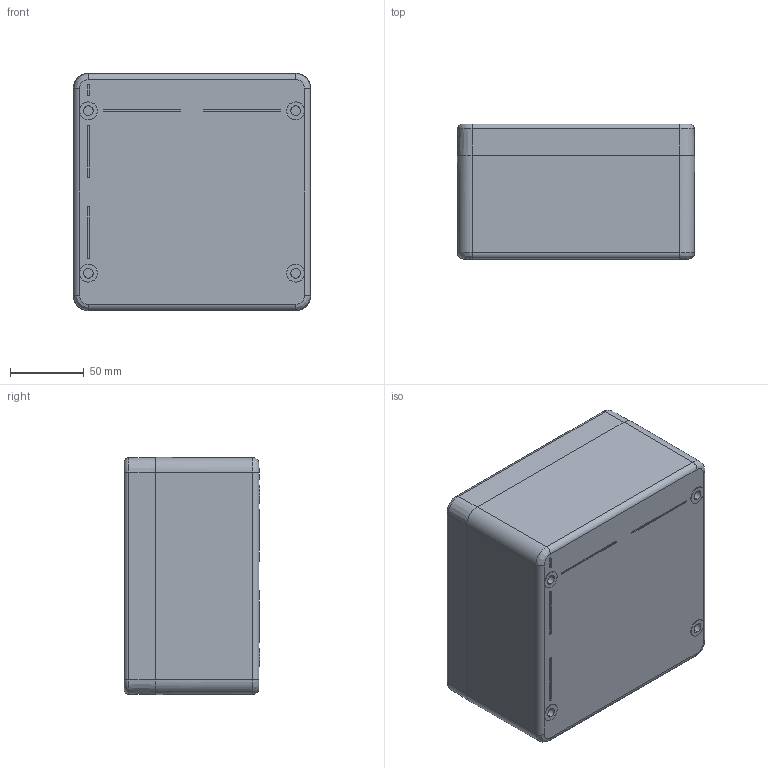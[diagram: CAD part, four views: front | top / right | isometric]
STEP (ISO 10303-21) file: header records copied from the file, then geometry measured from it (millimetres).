
FILE_DESCRIPTION((''),'2;1');
FILE_NAME('4280950000_ASM','2023-06-29T10:21:56',('Stephanie.Hoppe'),(''),'CREO PARAMETRIC BY PTC INC, 2022124','CREO PARAMETRIC BY PTC INC, 2022124','');
FILE_SCHEMA(('AUTOMOTIVE_DESIGN { 1 0 10303 214 1 1 1 1 }'));
Length unit declared in the file: millimetre
Products named in the file (10): 9331045000; 9502218000; 9502217000; 9331045000_ASM; 9332045000; 9614006600_DICHTUNG; 9614006600_ASM; 9262006000; 9261022000; 4280950000_ASM
Assembly tree (23 placements, depth 3):
  4280950000_ASM
    9331045000_ASM
      9331045000
      9502218000  x6
      9502217000  x4
    9614006600_ASM
      9332045000
      9614006600_DICHTUNG
    9262006000  x4
    9261022000  x4
Bounding box: 160.5 x 91.5 x 160.5 mm (x, y, z)
Volume: 716586.1 mm3; surface area: 246613.6 mm2
Topology: 21 solids, 35 shells, 2311 faces, 6255 edges, 4038 vertices
Faces by surface type: plane 1623, cone 444, cylinder 176, torus 44, bspline 24
Entity records: 40739 total; most frequent: CARTESIAN_POINT 7438, DIRECTION 4813, ORIENTED_EDGE 4208, PRESENTATION_STYLE_ASSIGNMENT 2396, STYLED_ITEM 2393, CURVE_STYLE 2384, EDGE_CURVE 2110, AXIS2_PLACEMENT_3D 1764
